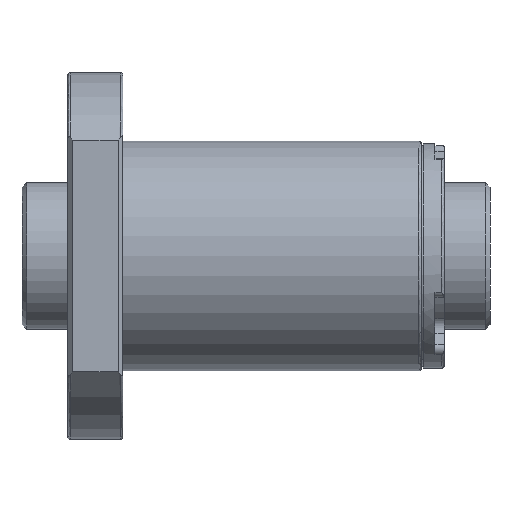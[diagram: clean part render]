
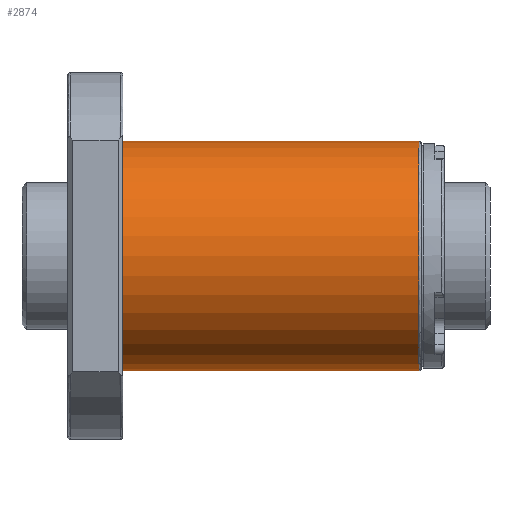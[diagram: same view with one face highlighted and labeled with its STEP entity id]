
A CAD part, front view. The second image highlights one B-rep face of the part: STEP entity #2874.
In plain terms, the highlighted cylindrical face has radius 25 mm (diameter 50 mm), a partial arc.
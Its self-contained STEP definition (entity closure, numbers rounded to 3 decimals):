
#450 = ORIENTED_EDGE ( 'NONE', *, *, #5088, .F. ) ;
#466 = EDGE_LOOP ( 'NONE', ( #450, #650, #2351, #2558 ) ) ;
#650 = ORIENTED_EDGE ( 'NONE', *, *, #5023, .T. ) ;
#736 = CYLINDRICAL_SURFACE ( 'NONE', #2252, 25. ) ;
#853 = AXIS2_PLACEMENT_3D ( 'NONE', #1130, #3877, #2555 ) ;
#1008 = VECTOR ( 'NONE', #8179, 1000. ) ;
#1130 = CARTESIAN_POINT ( 'NONE',  ( 12., 0., 0. ) ) ;
#1360 = EDGE_CURVE ( 'NONE', #3055, #4723, #8765, .T. ) ;
#1700 = CIRCLE ( 'NONE', #853, 25. ) ;
#1884 = DIRECTION ( 'NONE',  ( -1., 0., 0. ) ) ;
#2050 = AXIS2_PLACEMENT_3D ( 'NONE', #2085, #6817, #4152 ) ;
#2085 = CARTESIAN_POINT ( 'NONE',  ( 76.5, 0., 0. ) ) ;
#2174 = LINE ( 'NONE', #7500, #1008 ) ;
#2252 = AXIS2_PLACEMENT_3D ( 'NONE', #3751, #3694, #8407 ) ;
#2351 = ORIENTED_EDGE ( 'NONE', *, *, #1360, .T. ) ;
#2555 = DIRECTION ( 'NONE',  ( 0., 0., 1. ) ) ;
#2558 = ORIENTED_EDGE ( 'NONE', *, *, #6885, .T. ) ;
#2874 = ADVANCED_FACE ( 'NONE', ( #7996 ), #736, .T. ) ;
#3055 = VERTEX_POINT ( 'NONE', #3634 ) ;
#3575 = CIRCLE ( 'NONE', #2050, 25. ) ;
#3634 = CARTESIAN_POINT ( 'NONE',  ( 76.5, 0., 25. ) ) ;
#3694 = DIRECTION ( 'NONE',  ( -1., 0., 0. ) ) ;
#3713 = CARTESIAN_POINT ( 'NONE',  ( 12., 0., -25. ) ) ;
#3751 = CARTESIAN_POINT ( 'NONE',  ( 0., 0., 0. ) ) ;
#3848 = VERTEX_POINT ( 'NONE', #3713 ) ;
#3877 = DIRECTION ( 'NONE',  ( 1., 0., 0. ) ) ;
#4152 = DIRECTION ( 'NONE',  ( 0., 0., 1. ) ) ;
#4636 = CARTESIAN_POINT ( 'NONE',  ( 76.5, 0., -25. ) ) ;
#4723 = VERTEX_POINT ( 'NONE', #7137 ) ;
#4931 = VECTOR ( 'NONE', #1884, 1000. ) ;
#4953 = VERTEX_POINT ( 'NONE', #4636 ) ;
#5023 = EDGE_CURVE ( 'NONE', #4953, #3055, #3575, .T. ) ;
#5088 = EDGE_CURVE ( 'NONE', #4953, #3848, #2174, .T. ) ;
#5360 = CARTESIAN_POINT ( 'NONE',  ( 0., 0., 25. ) ) ;
#6817 = DIRECTION ( 'NONE',  ( -1., 0., 0. ) ) ;
#6885 = EDGE_CURVE ( 'NONE', #4723, #3848, #1700, .T. ) ;
#7137 = CARTESIAN_POINT ( 'NONE',  ( 12., 0., 25. ) ) ;
#7500 = CARTESIAN_POINT ( 'NONE',  ( 0., 0., -25. ) ) ;
#7996 = FACE_OUTER_BOUND ( 'NONE', #466, .T. ) ;
#8179 = DIRECTION ( 'NONE',  ( -1., 0., 0. ) ) ;
#8407 = DIRECTION ( 'NONE',  ( 0., 0., 1. ) ) ;
#8765 = LINE ( 'NONE', #5360, #4931 ) ;
